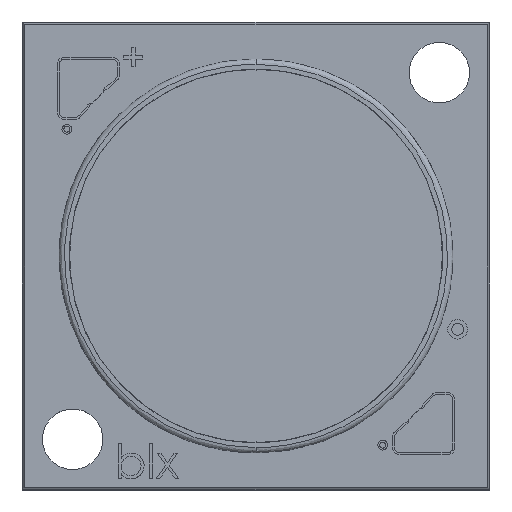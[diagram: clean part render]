
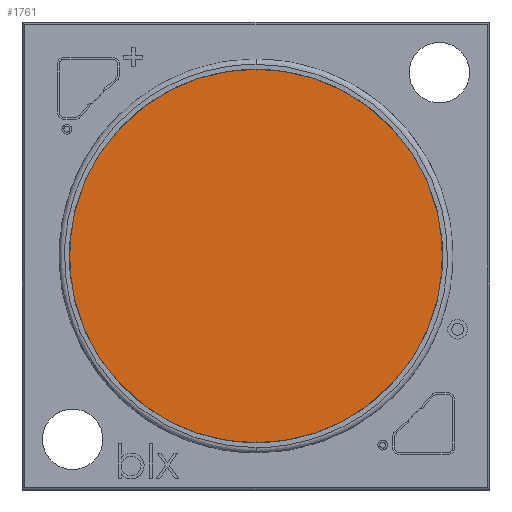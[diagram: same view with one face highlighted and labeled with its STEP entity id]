
A CAD part, top view. The second image highlights one B-rep face of the part: STEP entity #1761.
In plain terms, the highlighted planar face has unit normal (0, 0, 1).
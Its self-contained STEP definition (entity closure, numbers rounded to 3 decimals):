
#1347 = EDGE_LOOP ( 'NONE', ( #7595, #3637 ) ) ;
#1761 = ADVANCED_FACE ( 'NONE', ( #3202 ), #20292, .F. ) ;
#2344 = CARTESIAN_POINT ( 'NONE',  ( 19.15, 9.575, 1.565 ) ) ;
#3202 = FACE_OUTER_BOUND ( 'NONE', #1347, .T. ) ;
#3637 = ORIENTED_EDGE ( 'NONE', *, *, #21041, .F. ) ;
#3756 = EDGE_CURVE ( 'NONE', #13229, #6659, #13893, .T. ) ;
#4162 = CARTESIAN_POINT ( 'NONE',  ( 0., 9.575, 1.565 ) ) ;
#4232 = AXIS2_PLACEMENT_3D ( 'NONE', #19460, #19426, #19401 ) ;
#6198 = CARTESIAN_POINT ( 'NONE',  ( 0., -9.575, 1.565 ) ) ;
#6659 = VERTEX_POINT ( 'NONE', #17302 ) ;
#7595 = ORIENTED_EDGE ( 'NONE', *, *, #3756, .F. ) ;
#8316 = CARTESIAN_POINT ( 'NONE',  ( 0., -9.575, 1.565 ) ) ;
#13229 = VERTEX_POINT ( 'NONE', #6198 ) ;
#13893 =( BOUNDED_CURVE ( )  B_SPLINE_CURVE ( 3, ( #24176, #24413, #24312, #24173 ),
 .UNSPECIFIED., .F., .F. ) 
 B_SPLINE_CURVE_WITH_KNOTS ( ( 4, 4 ),
 ( 0., 1. ),
 .UNSPECIFIED. ) 
 CURVE ( )  GEOMETRIC_REPRESENTATION_ITEM ( )  RATIONAL_B_SPLINE_CURVE ( ( 1., 0.333, 0.333, 1. ) ) 
 REPRESENTATION_ITEM ( '' )  );
#17302 = CARTESIAN_POINT ( 'NONE',  ( 0., 9.575, 1.565 ) ) ;
#19401 = DIRECTION ( 'NONE',  ( -1., 0., 0. ) ) ;
#19426 = DIRECTION ( 'NONE',  ( 0., 0., -1. ) ) ;
#19460 = CARTESIAN_POINT ( 'NONE',  ( -9.575, 0., 1.565 ) ) ;
#19689 = CARTESIAN_POINT ( 'NONE',  ( 19.15, -9.575, 1.565 ) ) ;
#20292 = PLANE ( 'NONE',  #4232 ) ;
#21041 = EDGE_CURVE ( 'NONE', #6659, #13229, #21346, .T. ) ;
#21346 =( BOUNDED_CURVE ( )  B_SPLINE_CURVE ( 3, ( #4162, #2344, #19689, #8316 ),
 .UNSPECIFIED., .F., .F. ) 
 B_SPLINE_CURVE_WITH_KNOTS ( ( 4, 4 ),
 ( 0., 1. ),
 .UNSPECIFIED. ) 
 CURVE ( )  GEOMETRIC_REPRESENTATION_ITEM ( )  RATIONAL_B_SPLINE_CURVE ( ( 1., 0.333, 0.333, 1. ) ) 
 REPRESENTATION_ITEM ( '' )  );
#24173 = CARTESIAN_POINT ( 'NONE',  ( 0., 9.575, 1.565 ) ) ;
#24176 = CARTESIAN_POINT ( 'NONE',  ( 0., -9.575, 1.565 ) ) ;
#24312 = CARTESIAN_POINT ( 'NONE',  ( -19.15, 9.575, 1.565 ) ) ;
#24413 = CARTESIAN_POINT ( 'NONE',  ( -19.15, -9.575, 1.565 ) ) ;
